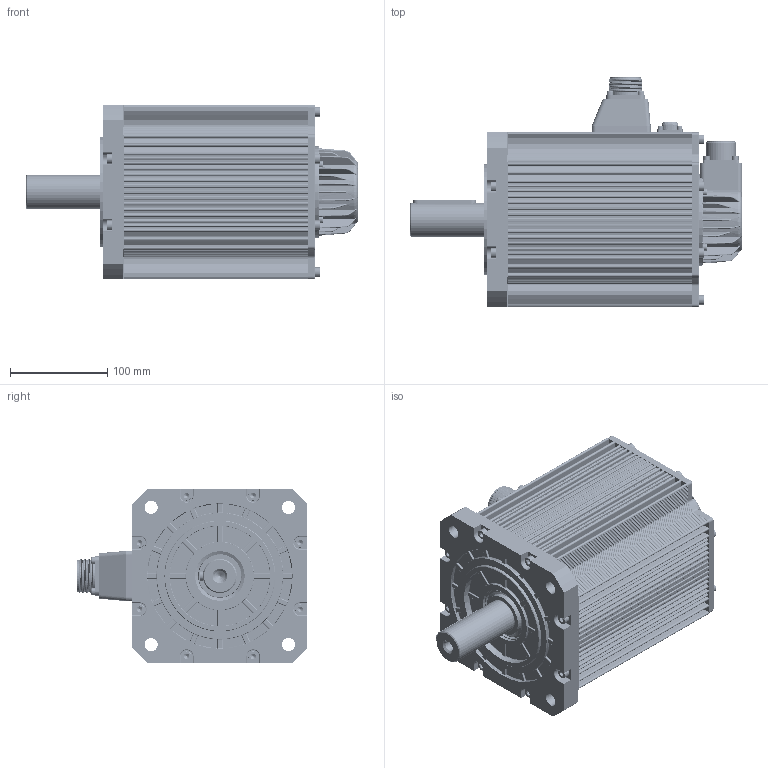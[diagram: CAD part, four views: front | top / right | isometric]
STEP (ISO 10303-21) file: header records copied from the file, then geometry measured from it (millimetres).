
FILE_DESCRIPTION((''),'2;1');
FILE_NAME('11101-01241_ASM','2024-11-14T11:08:09',('0108628'),(''),'CREO PARAMETRIC BY PTC INC, 2019080','CREO PARAMETRIC BY PTC INC, 2019080','');
FILE_SCHEMA(('CONFIG_CONTROL_DESIGN'));
Products named in the file (33): 83040194_AF0; 6206_AF0; 80100282_AF0; JB6695-161_AF0; 12111-00739_AF0_ASM; 80040355_AF0; 5X8L0; 12112-00973_AF0_ASM; YD32-180-TY; YD32-MD; YD32-MDS; DONGLI-HC-5015; YD32-4_ASM; 50030-00180_AF0; GBT7R1-6X25; 58X45X7L00; JB6695-161_AF1; QDG_AF0_ASM; 87800001_AF0; M4X12_AF0; M4X12_AF1; M4X12_AF2; M4X12_AF3; 10X8X65L; ISO4762-M4X6-8_8; 86870277_AF0; XINHAO-HC-5015; BAOZHA-MFD; BAOZHA-MFG; M3X8; DIN912-M4X40-8_8; DIN912-M4X12-8_8; 11101-01241_ASM
Assembly tree (56 placements, depth 3):
  11101-01241_ASM
    12111-00739_AF0_ASM
      83040194_AF0
      6206_AF0
      80100282_AF0
      JB6695-161_AF0
    12112-00973_AF0_ASM
      80040355_AF0
      5X8L0
    YD32-4_ASM
      YD32-180-TY
      YD32-MD
      YD32-MDS
      DONGLI-HC-5015
    QDG_AF0_ASM
      50030-00180_AF0
      GBT7R1-6X25  x8
      58X45X7L00
      JB6695-161_AF1
    87800001_AF0
    M4X12_AF0
    M4X12_AF1
    M4X12_AF2
    M4X12_AF3
    10X8X65L
    GBT7R1-6X25  x8
    ISO4762-M4X6-8_8
    86870277_AF0
    XINHAO-HC-5015
    BAOZHA-MFD
    BAOZHA-MFG
    M3X8  x4
    DIN912-M4X40-8_8  x4
    DIN912-M4X12-8_8  x4
Bounding box: 342 x 237.4 x 180 mm (x, y, z)
Volume: 1865337.9 mm3; surface area: 749499.7 mm2
Topology: 51 solids, 115 shells, 7001 faces, 18170 edges, 11515 vertices
Faces by surface type: plane 2440, cylinder 2255, extrusion 732, bspline 520, cone 512, torus 398, sphere 144
Entity records: 266925 total; most frequent: CARTESIAN_POINT 116100, ORIENTED_EDGE 32674, DIRECTION 29073, EDGE_CURVE 16418, VERTEX_POINT 10549, AXIS2_PLACEMENT_3D 10110, VECTOR 8853, LINE 8121
